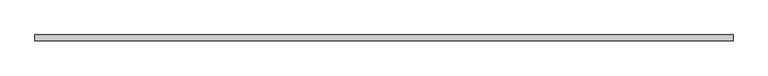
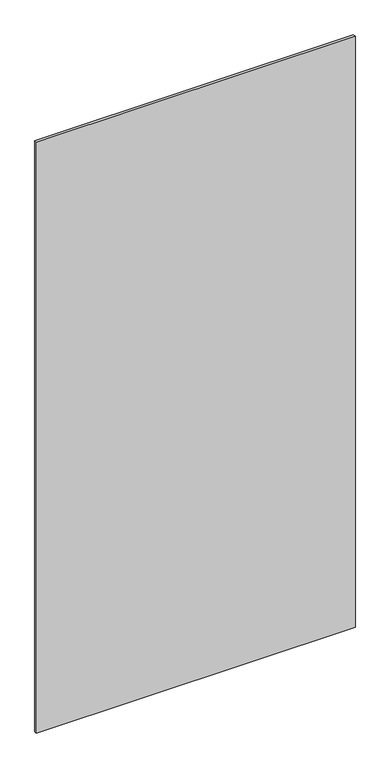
"""IFC4 building model written with IfcOpenShell, lengths in millimetres: plate geometry, システム パネル : 標準."""

from ifc_helpers import new_model, si_unit, origin, origin_with_axes, place, context, project, spatial, polyline, outline, extrude, source, transform, mapped, element, save


def plate_cef4847d(model_context):
    return source(origin(), model_context, "Body", "SweptSolid", [
        extrude(outline(polyline([(600.0, -5.0), (-600.0, -5.0), (-600.0, 5.0), (600.0, 5.0), (600.0, -5.0)])), origin_with_axes(), (0.0, 0.0, 1.0), 2350.0),
    ])


if __name__ == "__main__":
    model = new_model("IFC4")
    model_context = context("Model", 3, world=origin())
    ifc_project = project(units=[si_unit("LENGTHUNIT", "METRE", prefix="MILLI")], contexts=[model_context])
    site = spatial("IfcSite", under=ifc_project)
    building = spatial("IfcBuilding", under=site)
    placement = place(None, origin())
    plate_shape = plate_cef4847d(model_context)
    element("IfcPlate", 1, ObjectType="システム パネル : 標準", at=placement, inside=building, context=model_context, shape_type="MappedRepresentation", body=[
        mapped(plate_shape, transform((0.0, 0.0, 0.0), x_axis=(1.0, 0.0, 0.0), y_axis=(0.0, 1.0, 0.0), z_axis=(0.0, 0.0, 1.0))),
    ])
    save(model, "model.ifc")
